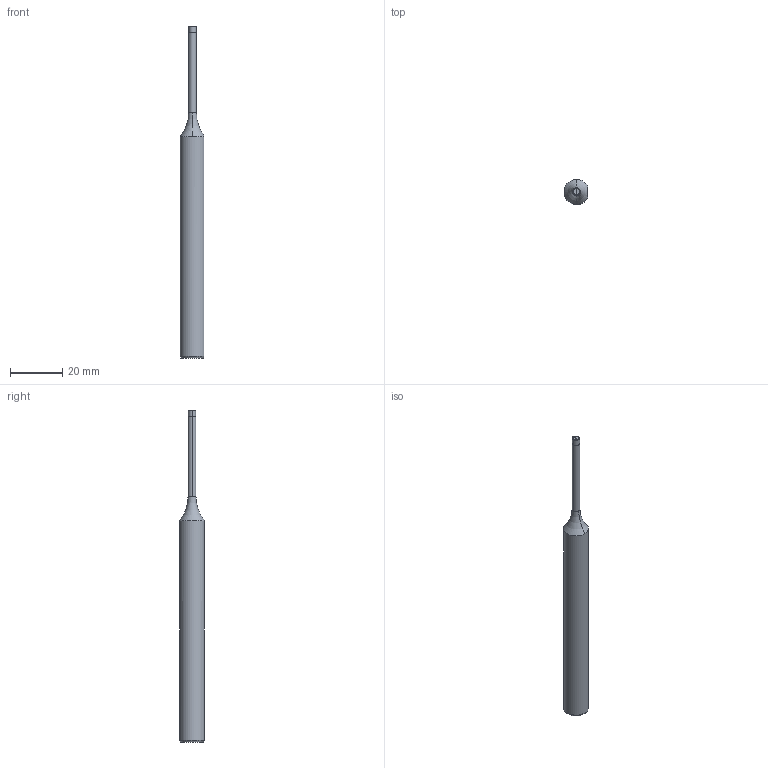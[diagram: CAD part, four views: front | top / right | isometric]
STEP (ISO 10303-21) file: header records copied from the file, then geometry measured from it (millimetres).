
FILE_DESCRIPTION (( 'STEP AP203' ), '1' );
FILE_NAME ('39000.1030.step', '2023-12-18T13:18:00', ( '' ), ( '' ), 'SwSTEP 2.0', 'SolidWorks 2019', '' );
FILE_SCHEMA (( 'CONFIG_CONTROL_DESIGN' ));
Length unit declared in the file: millimetre
Products named in the file (1): 39000.1030
Bounding box: 9.16 x 9.53 x 127 mm (x, y, z)
Volume: 6401.5 mm3; surface area: 3069.2 mm2
Topology: 1 solids, 1 shells, 15 faces, 33 edges, 22 vertices
Faces by surface type: cylinder 5, plane 4, cone 2, torus 2, sphere 2
Entity records: 528 total; most frequent: CARTESIAN_POINT 98, DIRECTION 85, ORIENTED_EDGE 66, AXIS2_PLACEMENT_3D 39, EDGE_CURVE 33, CIRCLE 23, VERTEX_POINT 22, EDGE_LOOP 17
